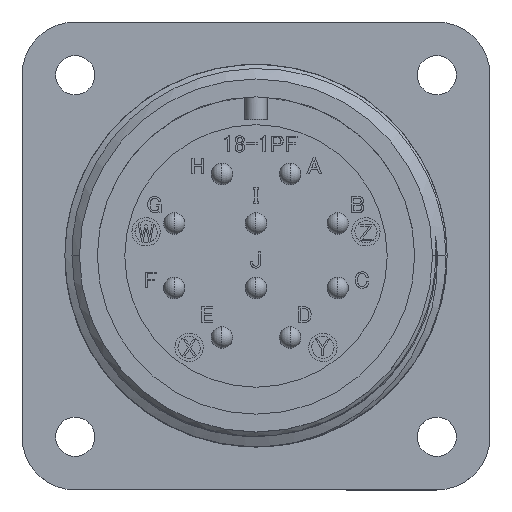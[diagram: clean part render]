
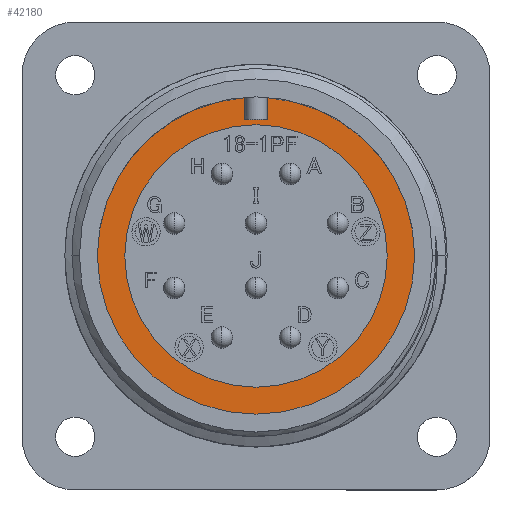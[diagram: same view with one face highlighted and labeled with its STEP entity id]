
A CAD part, top view. The second image highlights one B-rep face of the part: STEP entity #42180.
In plain terms, the highlighted planar face has unit normal (0, 0, 1).
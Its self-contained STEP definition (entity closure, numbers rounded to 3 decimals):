
#136 = AXIS2_PLACEMENT_3D ( 'NONE', #51151, #18159, #56708 ) ;
#3062 = VERTEX_POINT ( 'NONE', #16375 ) ;
#3879 = CARTESIAN_POINT ( 'NONE',  ( -0.825, 10.16, -19.18 ) ) ;
#4369 = PLANE ( 'NONE',  #45234 ) ;
#4464 = EDGE_LOOP ( 'NONE', ( #32570, #65665, #14504, #50828, #11088, #13369 ) ) ;
#7488 = DIRECTION ( 'NONE',  ( 0., -1., 0. ) ) ;
#8065 = CARTESIAN_POINT ( 'NONE',  ( 0., 0., -19.18 ) ) ;
#8582 = CARTESIAN_POINT ( 'NONE',  ( 0.825, 10.16, -19.18 ) ) ;
#9726 = VERTEX_POINT ( 'NONE', #30822 ) ;
#9928 = DIRECTION ( 'NONE',  ( 1., 0., 0. ) ) ;
#10548 = CIRCLE ( 'NONE', #57495, 9.795 ) ;
#11088 = ORIENTED_EDGE ( 'NONE', *, *, #70737, .T. ) ;
#13021 = CARTESIAN_POINT ( 'NONE',  ( -0.825, 500000., -19.18 ) ) ;
#13144 = EDGE_CURVE ( 'NONE', #30240, #3062, #70200, .T. ) ;
#13369 = ORIENTED_EDGE ( 'NONE', *, *, #58019, .F. ) ;
#13593 = DIRECTION ( 'NONE',  ( 1., 0., 0. ) ) ;
#14115 = DIRECTION ( 'NONE',  ( -1., 0., 0. ) ) ;
#14298 = CARTESIAN_POINT ( 'NONE',  ( 0.825, 10.16, -19.18 ) ) ;
#14504 = ORIENTED_EDGE ( 'NONE', *, *, #13144, .T. ) ;
#16375 = CARTESIAN_POINT ( 'NONE',  ( 0.825, 11.811, -19.18 ) ) ;
#17373 = VECTOR ( 'NONE', #7488, 1000. ) ;
#18159 = DIRECTION ( 'NONE',  ( 0., 0., 1. ) ) ;
#20793 = LINE ( 'NONE', #13021, #17373 ) ;
#23353 = ORIENTED_EDGE ( 'NONE', *, *, #37155, .F. ) ;
#23381 = AXIS2_PLACEMENT_3D ( 'NONE', #27985, #66535, #33503 ) ;
#23528 = CARTESIAN_POINT ( 'NONE',  ( 0., 0., -19.18 ) ) ;
#26872 = EDGE_LOOP ( 'NONE', ( #23353, #55924 ) ) ;
#27960 = CARTESIAN_POINT ( 'NONE',  ( 0., 0., -19.18 ) ) ;
#27985 = CARTESIAN_POINT ( 'NONE',  ( 0., 0., -19.18 ) ) ;
#28874 = FACE_OUTER_BOUND ( 'NONE', #4464, .T. ) ;
#29052 = DIRECTION ( 'NONE',  ( 1., 0., 0. ) ) ;
#29280 = VERTEX_POINT ( 'NONE', #53938 ) ;
#30240 = VERTEX_POINT ( 'NONE', #70393 ) ;
#30822 = CARTESIAN_POINT ( 'NONE',  ( 9.795, 0., -19.18 ) ) ;
#32570 = ORIENTED_EDGE ( 'NONE', *, *, #42897, .T. ) ;
#33479 = DIRECTION ( 'NONE',  ( 1., 0., 0. ) ) ;
#33503 = DIRECTION ( 'NONE',  ( 1., 0., 0. ) ) ;
#34765 = EDGE_CURVE ( 'NONE', #40472, #9726, #10548, .T. ) ;
#35148 = CARTESIAN_POINT ( 'NONE',  ( 0.825, 500000., -19.18 ) ) ;
#36436 = AXIS2_PLACEMENT_3D ( 'NONE', #8065, #46568, #13593 ) ;
#37155 = EDGE_CURVE ( 'NONE', #9726, #40472, #68144, .T. ) ;
#38682 = VERTEX_POINT ( 'NONE', #14298 ) ;
#40472 = VERTEX_POINT ( 'NONE', #50839 ) ;
#42180 = ADVANCED_FACE ( 'NONE', ( #71129, #28874 ), #4369, .T. ) ;
#42880 = AXIS2_PLACEMENT_3D ( 'NONE', #23528, #62113, #29052 ) ;
#42881 = DIRECTION ( 'NONE',  ( 0., 0., 1. ) ) ;
#42897 = EDGE_CURVE ( 'NONE', #44434, #29280, #56432, .T. ) ;
#44434 = VERTEX_POINT ( 'NONE', #58384 ) ;
#45234 = AXIS2_PLACEMENT_3D ( 'NONE', #59294, #42881, #9928 ) ;
#45812 = VECTOR ( 'NONE', #14115, 1000. ) ;
#46568 = DIRECTION ( 'NONE',  ( 0., 0., 1. ) ) ;
#47070 = VECTOR ( 'NONE', #62923, 1000. ) ;
#48999 = VERTEX_POINT ( 'NONE', #3879 ) ;
#50828 = ORIENTED_EDGE ( 'NONE', *, *, #65445, .T. ) ;
#50839 = CARTESIAN_POINT ( 'NONE',  ( -9.795, 0., -19.18 ) ) ;
#51151 = CARTESIAN_POINT ( 'NONE',  ( 0., 0., -19.18 ) ) ;
#53938 = CARTESIAN_POINT ( 'NONE',  ( -11.84, 0., -19.18 ) ) ;
#55924 = ORIENTED_EDGE ( 'NONE', *, *, #34765, .F. ) ;
#56432 = CIRCLE ( 'NONE', #36436, 11.84 ) ;
#56708 = DIRECTION ( 'NONE',  ( 1., 0., 0. ) ) ;
#56894 = CIRCLE ( 'NONE', #136, 11.84 ) ;
#57495 = AXIS2_PLACEMENT_3D ( 'NONE', #27960, #66507, #33479 ) ;
#58019 = EDGE_CURVE ( 'NONE', #44434, #48999, #20793, .T. ) ;
#58384 = CARTESIAN_POINT ( 'NONE',  ( -0.825, 11.811, -19.18 ) ) ;
#59245 = EDGE_CURVE ( 'NONE', #29280, #30240, #56894, .T. ) ;
#59294 = CARTESIAN_POINT ( 'NONE',  ( 0., 11.84, -19.18 ) ) ;
#60505 = LINE ( 'NONE', #8582, #45812 ) ;
#61729 = LINE ( 'NONE', #35148, #47070 ) ;
#62113 = DIRECTION ( 'NONE',  ( 0., 0., 1. ) ) ;
#62923 = DIRECTION ( 'NONE',  ( 0., -1., 0. ) ) ;
#65445 = EDGE_CURVE ( 'NONE', #3062, #38682, #61729, .T. ) ;
#65665 = ORIENTED_EDGE ( 'NONE', *, *, #59245, .T. ) ;
#66507 = DIRECTION ( 'NONE',  ( 0., 0., 1. ) ) ;
#66535 = DIRECTION ( 'NONE',  ( 0., 0., 1. ) ) ;
#68144 = CIRCLE ( 'NONE', #23381, 9.795 ) ;
#70200 = CIRCLE ( 'NONE', #42880, 11.84 ) ;
#70393 = CARTESIAN_POINT ( 'NONE',  ( 11.84, 0., -19.18 ) ) ;
#70737 = EDGE_CURVE ( 'NONE', #38682, #48999, #60505, .T. ) ;
#71129 = FACE_BOUND ( 'NONE', #26872, .T. ) ;
